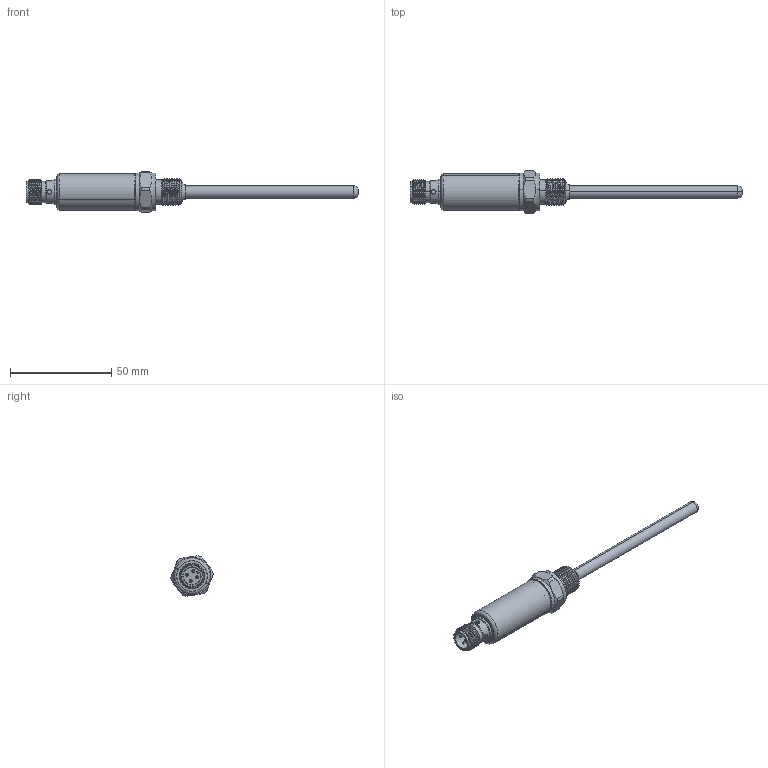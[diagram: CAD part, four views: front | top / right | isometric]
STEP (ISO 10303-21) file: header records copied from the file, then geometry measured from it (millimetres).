
FILE_DESCRIPTION (( 'STEP AP214' ), '1' );
FILE_NAME ('BTA1A53.STEP', '2026-07-31T01:16:36', ( '' ), ( '' ), 'SwSTEP 2.0', 'SolidWorks 2025', '' );
FILE_SCHEMA (( 'AUTOMOTIVE_DESIGN' ));
Length unit declared in the file: millimetre
Products named in the file (8): BTA1A53; 温度探头接头; 航插座壳; 壳体; 航插胶壳; 航插针; 线路板; 探头管
Assembly tree (10 placements, depth 2):
  BTA1A53
    航插座壳
    壳体
    温度探头接头
    探头管
    航插胶壳
    航插针  x4
    线路板
Bounding box: 164.2 x 20.96 x 20.1 mm (x, y, z)
Volume: 6800 mm3; surface area: 14255.9 mm2
Topology: 10 solids, 10 shells, 257 faces, 593 edges, 376 vertices
Faces by surface type: cylinder 130, plane 74, torus 24, cone 21, bspline 8
Entity records: 11045 total; most frequent: CARTESIAN_POINT 5757, DIRECTION 1066, ORIENTED_EDGE 1054, EDGE_CURVE 527, AXIS2_PLACEMENT_3D 431, VERTEX_POINT 334, EDGE_LOOP 257, ADVANCED_FACE 221
